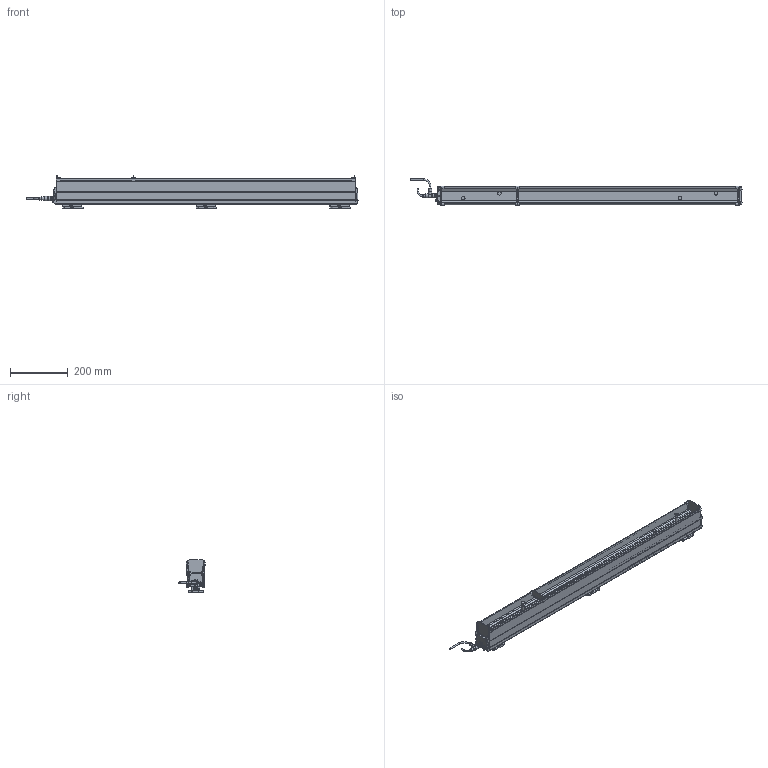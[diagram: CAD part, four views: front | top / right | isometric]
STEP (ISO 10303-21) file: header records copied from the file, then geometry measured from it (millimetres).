
FILE_DESCRIPTION(/* description */ (''),/* implementation_level */ '2;1');
FILE_NAME(/* name */ 'THUNDERION2_3D_0875-1070',/* time_stamp */ '2017-09-28T10:53:35+02:00',/* author */ (''),/* organization */ (''),/* preprocessor_version */ 'ST-DEVELOPER v15.7',/* originating_system */ 'HiCAD 2015 2002.1 Build 408',/* authorisation */ '');
FILE_SCHEMA (('AUTOMOTIVE_DESIGN { 1 0 10303 214 1 1 1 1 }'));
Products named in the file (91): Root; -_ThunderION 0875/1070; -_Side profile; -_Bar; -_Connector straight; EXTRUDED SOLID_0; -_Cord; REVOLVED SOLID_1; REVOLVED SOLID_3; DIN 13-M12x1,5; -_Connector angled; REVOLVED SOLID_2; 4532000100_Mounting bracket bars; -_Side piece; -_Slide piece; -_Bracket small; DIN 13-M3; DIN 76-M3; -_Cable End; light pipe M; light pipe L; -_Cap CE; -_Stud M4; -_Connector M12 male 5 pole_1; -_Contacts; ABSR_1_2_1_1_Inner part; ABSR_1_2_1_2_Inner part; bus; Pg 9; -_Ring tongue terminal; 9230000020_Nut M4; GEWINDE; 9240100020_Spring washer M4; ISO 7051-ST3.5x9.5-C-H_Tapping screws_0; -_Fill; -_Dead end; -_Cap DE; -_Emitter; -_Support Side Profile; -_End Plate
Assembly tree (90 placements, depth 6):
  Root
    -_ThunderION 0875/1070
      -_Side profile
      -_Side profile
      -_Bar
      -_Connector straight
        EXTRUDED SOLID_0
        -_Cord
        REVOLVED SOLID_1
        REVOLVED SOLID_3
          DIN 13-M12x1,5
      -_Connector angled
        REVOLVED SOLID_1
        EXTRUDED SOLID_0
        -_Cord
        REVOLVED SOLID_2
        REVOLVED SOLID_3
          DIN 13-M12x1,5
      4532000100_Mounting bracket bars
        -_Side piece
        -_Side piece
        -_Slide piece
        -_Bracket small
          DIN 13-M3
          DIN 13-M3
          DIN 76-M3
          DIN 76-M3
      4532000100_Mounting bracket bars
        -_Side piece
        -_Side piece
        -_Slide piece
        -_Bracket small
          DIN 13-M3
          DIN 13-M3
          DIN 76-M3
          DIN 76-M3
      4532000100_Mounting bracket bars
        -_Side piece
        -_Side piece
        -_Slide piece
        -_Bracket small
          DIN 13-M3
          DIN 13-M3
          DIN 76-M3
          DIN 76-M3
      -_Cable End
        light pipe M
        light pipe L
        light pipe L
        -_Cap CE
        -_Stud M4
        -_Connector M12 male 5 pole_1
          -_Contacts
          ABSR_1_2_1_1_Inner part
          ABSR_1_2_1_2_Inner part
          bus
            Pg 9
        -_Ring tongue terminal
        9230000020_Nut M4
          GEWINDE
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Bounding box: 1148.34 x 92.24 x 113 mm (x, y, z)
Volume: 3383528.7 mm3; surface area: 823327.3 mm2
Topology: 85 solids, 94 shells, 3534 faces, 9147 edges, 5635 vertices
Faces by surface type: plane 1572, cylinder 1294, bspline 216, cone 161, torus 155, sphere 136
Full cylindrical faces by diameter (mm): 0.8 x10, 1 x10, 2.387 x12, 2.5 x1, 2.64 x16, 3 x24, 3.141 x2, 3.5 x8, 4 x26, 4.2 x3, 4.4 x1, 5 x4, 5.5 x15, 7.3 x8, 8 x2, 8.4 x2, 9 x6, 9.6 x1, 10 x2, 10.16 x1, 10.5 x2, 11 x4, 12 x5, 12.8 x1, 13.8 x4, 13.86 x1, 14.5 x3, 15.199 x1, 15.2 x1
Entity records: 223316 total; most frequent: CARTESIAN_POINT 71005, DIRECTION 17385, PRESENTATION_STYLE_ASSIGNMENT 17180, OVER_RIDING_STYLED_ITEM 17099, DRAUGHTING_PRE_DEFINED_CURVE_FONT 17072, CURVE_STYLE 17072, ORIENTED_EDGE 17072, EDGE_CURVE 8536
